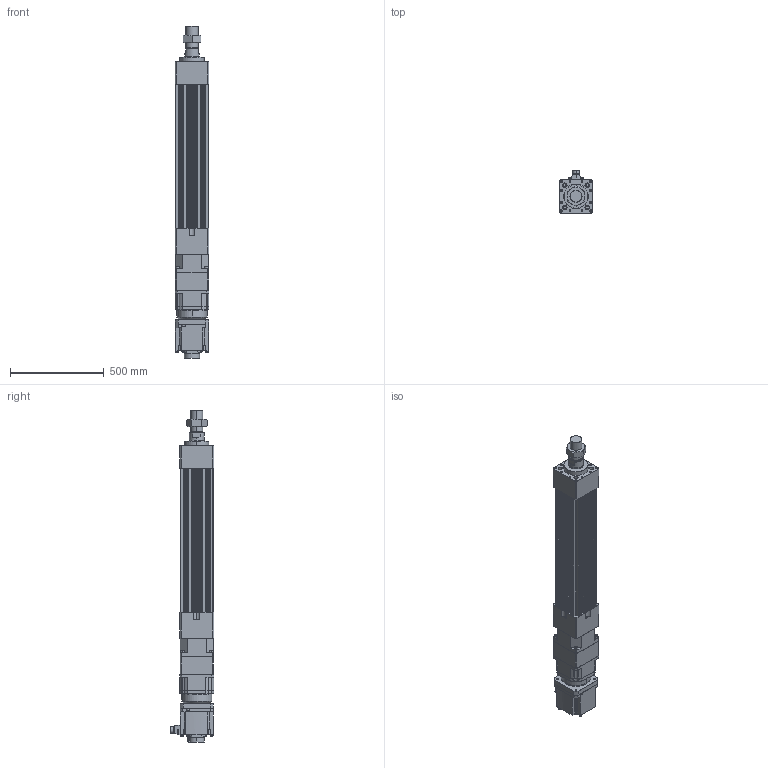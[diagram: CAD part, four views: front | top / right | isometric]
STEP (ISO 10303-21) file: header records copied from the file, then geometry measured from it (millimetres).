
FILE_DESCRIPTION (( 'STEP AP203' ), '1' );
FILE_NAME ('HES180HS-S450-W050G00-M.STEP', '2023-02-01T09:45:17', ( 'tms' ), ( '' ), 'SwSTEP 2.0', 'SolidWorks 2013', '' );
FILE_SCHEMA (( 'CONFIG_CONTROL_DESIGN' ));
Length unit declared in the file: millimetre
Products named in the file (9): AB1801; HG-SR502; HES180 ROD M ST450; HES180-S450-G180; M64X2.0P; AB180-003[HG-SR702B]; P0403600401; P1301600001; HES180HS-S450-W050G00-M
Assembly tree (8 placements, depth 3):
  HES180HS-S450-W050G00-M
    HES180-S450-G180
    HES180 ROD M ST450
    M64X2.0P
    AB180-003[HG-SR702B]
      AB1801
      P1301600001
      P0403600401
    HG-SR502
Bounding box: 180 x 230.85 x 1767 mm (x, y, z)
Volume: 26211927 mm3; surface area: 2462126.8 mm2
Topology: 4 solids, 23 shells, 1534 faces, 3945 edges, 2546 vertices
Faces by surface type: cylinder 693, plane 600, cone 174, bspline 63, torus 4
Entity records: 55246 total; most frequent: CARTESIAN_POINT 16431, DIRECTION 8177, ORIENTED_EDGE 7750, EDGE_CURVE 3899, AXIS2_PLACEMENT_3D 3072, VERTEX_POINT 2546, VECTOR 2033, LINE 2033
